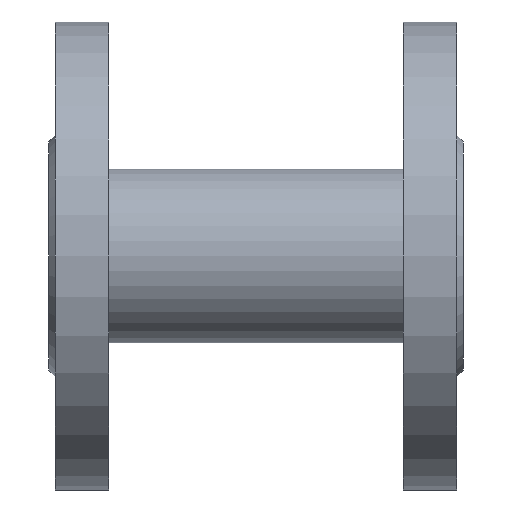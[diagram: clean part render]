
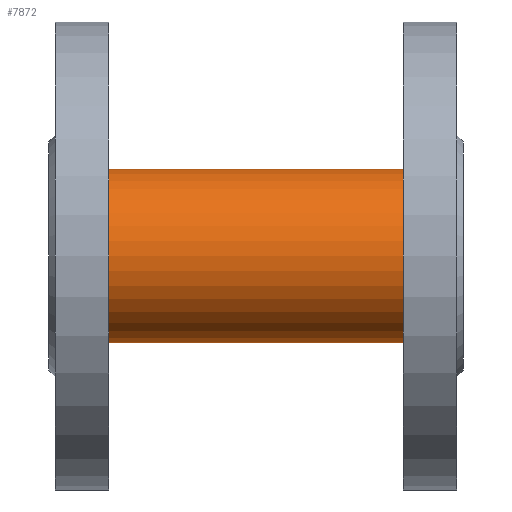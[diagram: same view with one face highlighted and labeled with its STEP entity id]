
A CAD part, front view. The second image highlights one B-rep face of the part: STEP entity #7872.
In plain terms, the highlighted cylindrical face has radius 26 mm (diameter 52 mm), a full revolution.
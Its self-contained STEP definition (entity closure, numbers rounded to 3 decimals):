
#2675=LINE('',#36084,#4655);
#2676=LINE('',#36090,#4656);
#4655=VECTOR('',#29485,1.);
#4656=VECTOR('',#29490,1.);
#6874=ELLIPSE('',#27261,36.77,26.);
#6875=ELLIPSE('',#27262,36.77,26.);
#6876=ELLIPSE('',#27263,36.77,26.);
#6877=ELLIPSE('',#27264,36.77,26.);
#7422=CYLINDRICAL_SURFACE('',#27267,26.);
#7872=ADVANCED_FACE('',(#10300,#10301,#10302),#7422,.T.);
#10300=FACE_BOUND('',#11118,.T.);
#10301=FACE_BOUND('',#11119,.T.);
#10302=FACE_BOUND('',#11120,.T.);
#11118=EDGE_LOOP('',(#13162,#13163,#13164,#13165,#13166,#13167));
#11119=EDGE_LOOP('',(#13168));
#11120=EDGE_LOOP('',(#13169));
#13162=ORIENTED_EDGE('',*,*,#22786,.T.);
#13163=ORIENTED_EDGE('',*,*,#22787,.T.);
#13164=ORIENTED_EDGE('',*,*,#22788,.T.);
#13165=ORIENTED_EDGE('',*,*,#22789,.T.);
#13166=ORIENTED_EDGE('',*,*,#22790,.T.);
#13167=ORIENTED_EDGE('',*,*,#22791,.T.);
#13168=ORIENTED_EDGE('',*,*,#22792,.F.);
#13169=ORIENTED_EDGE('',*,*,#22793,.F.);
#20344=VERTEX_POINT('',#36080);
#20345=VERTEX_POINT('',#36081);
#20346=VERTEX_POINT('',#36083);
#20347=VERTEX_POINT('',#36085);
#20348=VERTEX_POINT('',#36087);
#20349=VERTEX_POINT('',#36089);
#20350=VERTEX_POINT('',#36092);
#20351=VERTEX_POINT('',#36094);
#22786=EDGE_CURVE('',#20344,#20345,#6874,.T.);
#22787=EDGE_CURVE('',#20345,#20346,#6875,.T.);
#22788=EDGE_CURVE('',#20346,#20347,#2675,.T.);
#22789=EDGE_CURVE('',#20347,#20348,#6876,.T.);
#22790=EDGE_CURVE('',#20348,#20349,#6877,.T.);
#22791=EDGE_CURVE('',#20349,#20344,#2676,.T.);
#22792=EDGE_CURVE('',#20350,#20350,#26384,.T.);
#22793=EDGE_CURVE('',#20351,#20351,#26385,.T.);
#26384=CIRCLE('',#27265,26.);
#26385=CIRCLE('',#27266,26.);
#27261=AXIS2_PLACEMENT_3D('',#36079,#29481,#29482);
#27262=AXIS2_PLACEMENT_3D('',#36082,#29483,#29484);
#27263=AXIS2_PLACEMENT_3D('',#36086,#29486,#29487);
#27264=AXIS2_PLACEMENT_3D('',#36088,#29488,#29489);
#27265=AXIS2_PLACEMENT_3D('',#36091,#29491,#29492);
#27266=AXIS2_PLACEMENT_3D('',#36093,#29493,#29494);
#27267=AXIS2_PLACEMENT_3D('',#36095,#29495,#29496);
#29481=DIRECTION('',(-0.707,-0.707,0.));
#29482=DIRECTION('',(-0.707,0.707,0.));
#29483=DIRECTION('',(-0.707,-0.707,0.));
#29484=DIRECTION('',(-0.707,0.707,0.));
#29485=DIRECTION('',(1.,0.,0.));
#29486=DIRECTION('',(0.707,-0.707,0.));
#29487=DIRECTION('',(-0.707,-0.707,0.));
#29488=DIRECTION('',(0.707,-0.707,0.));
#29489=DIRECTION('',(-0.707,-0.707,0.));
#29490=DIRECTION('',(-1.,0.,0.));
#29491=DIRECTION('',(1.,0.,0.));
#29492=DIRECTION('',(0.,0.,1.));
#29493=DIRECTION('',(-1.,0.,0.));
#29494=DIRECTION('',(0.,0.,-1.));
#29495=DIRECTION('',(-1.,0.,0.));
#29496=DIRECTION('',(0.,0.,1.));
#36079=CARTESIAN_POINT('',(45.,-22.49,380.5));
#36080=CARTESIAN_POINT('',(20.,2.51,387.641));
#36081=CARTESIAN_POINT('',(19.,3.51,380.5));
#36082=CARTESIAN_POINT('',(45.,-22.49,380.5));
#36083=CARTESIAN_POINT('',(20.,2.51,373.359));
#36084=CARTESIAN_POINT('',(20.,2.51,373.359));
#36085=CARTESIAN_POINT('',(70.,2.51,373.359));
#36086=CARTESIAN_POINT('',(45.,-22.49,380.5));
#36087=CARTESIAN_POINT('',(71.,3.51,380.5));
#36088=CARTESIAN_POINT('',(45.,-22.49,380.5));
#36089=CARTESIAN_POINT('',(70.,2.51,387.641));
#36090=CARTESIAN_POINT('',(70.,2.51,387.641));
#36091=CARTESIAN_POINT('',(89.,-22.49,380.5));
#36092=CARTESIAN_POINT('',(89.,-22.49,406.5));
#36093=CARTESIAN_POINT('',(1.,-22.49,380.5));
#36094=CARTESIAN_POINT('',(1.,-22.49,354.5));
#36095=CARTESIAN_POINT('',(76.,-22.49,380.5));
